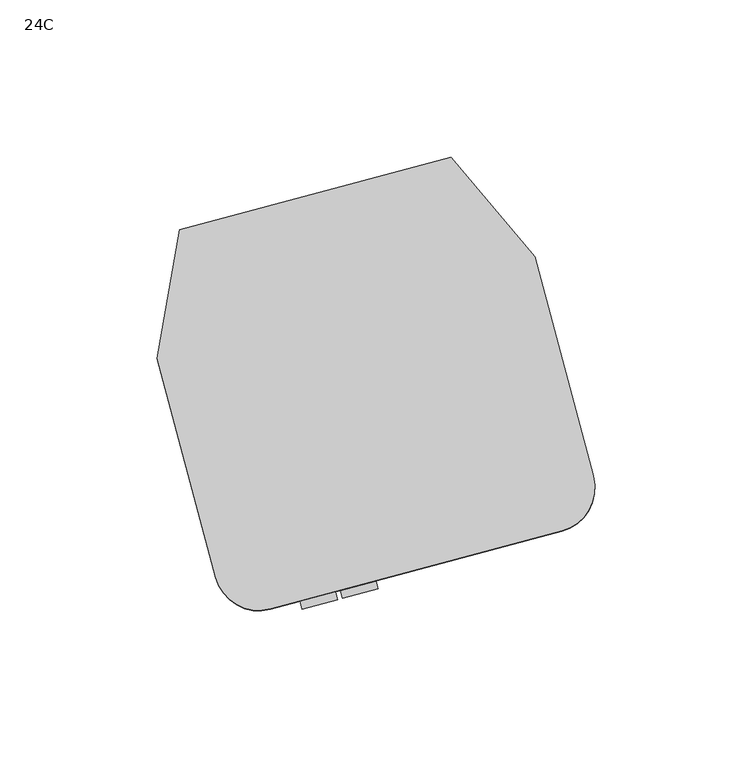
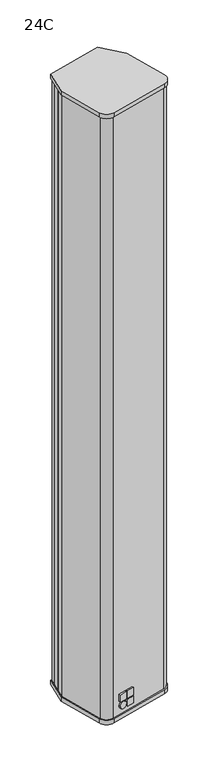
"""IFC4 building model written with IfcOpenShell, lengths in millimetres: proxy geometry, d&b xC-Series 24C Column : 24C."""

from ifc_helpers import new_model, si_unit, point, frame, frame_2d, origin, place, context, project, spatial, polyline, circle_curve, trimmed, segment, composite_curve, outline, extrude, source, transform, mapped, element, save
from ifc_brep_helpers import plane_surface, cylinder_surface, revolved_surface, advanced_brep


def proxy_24c_4d4a53e0(model_context):
    return source(origin(), model_context, "Body", "SolidModel", [
        extrude(outline(polyline([(31.0343606, 60.2144165), (32.9494717, 61.8213856), (42.582395, 50.3413145), (40.6672839, 48.7343455), (31.0343606, 60.2144165)])), frame((0.0, 0.0, -493.0), z_axis=(0.0, 0.0, 1.0), x_axis=(1.0, 0.0, 0.0)), (0.0, 0.0, 1.0), 986.0),
        extrude(outline(polyline([(-56.9837529, 36.6300341), (-59.5860737, 21.8715393), (-62.0480931, 22.3056597), (-59.4457723, 37.0641546), (-56.9837529, 36.6300341)])), frame((0.0, 0.0, -493.0), z_axis=(0.0, 0.0, 1.0), x_axis=(1.0, 0.0, 0.0)), (0.0, 0.0, 1.0), 986.0),
        advanced_brep(
        [(-46.5517702, 49.9018806, 493.0), (-57.7092905, 46.9122321, 493.0), (-59.4457723, 37.0641546, 493.0), (-56.9837529, 36.6300341, 493.0), (-59.5860737, 21.8715393, 493.0), (-62.0480931, 22.3056597, 493.0), (-64.6528158, 7.5335434, 493.0), (-46.0249993, -61.9864142, 493.0), (-30.975496, -70.675249, 493.0), (62.1631909, -45.7188131, 493.0), (70.8520257, -30.6693098, 493.0), (52.2242092, 38.8506479, 493.0), (42.582395, 50.3413145, 493.0), (40.6672839, 48.7343455, 493.0), (31.0343606, 60.2144165, 493.0), (32.9494717, 61.8213856, 493.0), (26.5215956, 69.48183, 493.0), (15.3640753, 66.4921814, 493.0), (15.9334774, 64.3671439, 493.0), (19.9903661, 65.4541839, 493.0), (20.7032742, 62.793575, 493.0), (17.8426496, 57.8388278, 493.0), (9.7245576, 55.6635916, 493.0), (4.7643418, 58.5273735, 493.0), (4.0525894, 61.1836695, 493.0), (8.1094782, 62.2707096, 493.0), (7.5400761, 64.3957472, 493.0), (-1.1049601, 62.0793167, 493.0), (1.4832304, 52.4200584, 493.0), (-27.4945444, 44.6554871, 493.0), (-30.0827349, 54.3147454, 493.0), (-38.727771, 51.9983149, 493.0), (-38.1583689, 49.8732773, 493.0), (-34.1014801, 50.9603174, 493.0), (-33.3897277, 48.3040214, 493.0), (-36.2535097, 43.3438056, 493.0), (-44.3716017, 41.1685694, 493.0), (-49.3263489, 44.029194, 493.0), (-50.0392569, 46.689803, 493.0), (-45.9823681, 47.7768431, 493.0), (-46.5517702, 49.9018806, -493.0), (-45.9823681, 47.7768431, -493.0), (-50.0392569, 46.689803, -493.0), (-49.3263489, 44.029194, -493.0), (-44.3716017, 41.1685694, -493.0), (-36.2535097, 43.3438056, -493.0), (-33.3897277, 48.3040214, -493.0), (-34.1014801, 50.9603174, -493.0), (-38.1583689, 49.8732773, -493.0), (-38.727771, 51.9983149, -493.0), (7.5400761, 64.3957472, -493.0), (8.1094782, 62.2707096, -493.0), (4.0525894, 61.1836695, -493.0), (4.7643418, 58.5273735, -493.0), (9.7245576, 55.6635916, -493.0), (17.8426496, 57.8388278, -493.0), (20.7032742, 62.793575, -493.0), (19.9903661, 65.4541839, -493.0), (15.9334774, 64.3671439, -493.0), (15.3640753, 66.4921814, -493.0), (26.5215956, 69.48183, -493.0), (32.9494717, 61.8213856, -493.0), (31.0343606, 60.2144165, -493.0), (40.6672839, 48.7343455, -493.0), (42.582395, 50.3413145, -493.0), (52.2242092, 38.8506479, -493.0), (70.8520257, -30.6693098, -493.0), (62.1631909, -45.7188131, -493.0), (-30.975496, -70.675249, -493.0), (-46.0249993, -61.9864142, -493.0), (-64.6528158, 7.5335434, -493.0), (-62.0480931, 22.3056597, -493.0), (-59.5860737, 21.8715393, -493.0), (-56.9837529, 36.6300341, -493.0), (-59.4457723, 37.0641546, -493.0), (-57.7092905, 46.9122321, -493.0), (-30.0827349, 54.3147454, 461.5), (-27.6679203, 54.961793, 459.0), (-3.5197746, 61.4322691, 459.0), (-1.1049601, 62.0793167, 461.5), (-18.8538471, 57.3235168, -263.5), (-18.8538471, 57.3235168, -365.0), (-12.3338478, 59.0705453, -365.0), (-12.3338478, 59.0705453, -263.5), (1.4832304, 52.4200584, 461.5), (-0.9315842, 51.7730108, 459.0), (-25.0797298, 45.3025347, 459.0), (-27.4945444, 44.6554871, 461.5), (-18.0126852, 54.1842578, -365.0), (-18.0126852, 54.1842578, -263.5), (-11.4926859, 55.9312864, -263.5), (-11.4926859, 55.9312864, -365.0)],
        [
            (0, 1),
            (1, 2),
            (2, 3),
            (3, 4),
            (4, 5),
            (5, 6),
            (6, 7),
            (7, 8, circle_curve(frame((-34.1558303, -58.80608, 493.0), z_axis=(0.0, 0.0, 1.0), x_axis=(-0.965925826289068, -0.2588190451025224, 0.0)), 12.287868)),
            (8, 9),
            (9, 10, circle_curve(frame((58.9828567, -33.849644, 493.0), z_axis=(0.0, 0.0, 1.0), x_axis=(-0.965925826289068, -0.2588190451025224, 0.0)), 12.287868)),
            (10, 11),
            (11, 12),
            (12, 13),
            (13, 14),
            (14, 15),
            (15, 16),
            (16, 17),
            (17, 18),
            (18, 19),
            (19, 20),
            (20, 21),
            (21, 22),
            (22, 23),
            (23, 24),
            (24, 25),
            (25, 26),
            (26, 27),
            (27, 28),
            (28, 29),
            (29, 30),
            (30, 31),
            (31, 32),
            (32, 33),
            (33, 34),
            (34, 35),
            (35, 36),
            (36, 37),
            (37, 38),
            (38, 39),
            (39, 0),
            (40, 41),
            (41, 42),
            (42, 43),
            (43, 44),
            (44, 45),
            (45, 46),
            (46, 47),
            (47, 48),
            (48, 49),
            (49, 50),
            (50, 51),
            (51, 52),
            (52, 53),
            (53, 54),
            (54, 55),
            (55, 56),
            (56, 57),
            (57, 58),
            (58, 59),
            (59, 60),
            (60, 61),
            (61, 62),
            (62, 63),
            (63, 64),
            (64, 65),
            (65, 66),
            (66, 67, circle_curve(frame((58.9828567, -33.849644, -493.0), z_axis=(0.0, 0.0, -1.0), x_axis=(-0.965925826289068, -0.2588190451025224, 0.0)), 12.287868)),
            (67, 68),
            (68, 69, circle_curve(frame((-34.1558303, -58.80608, -493.0), z_axis=(0.0, 0.0, -1.0), x_axis=(-0.965925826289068, -0.2588190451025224, 0.0)), 12.287868)),
            (69, 70),
            (70, 71),
            (71, 72),
            (72, 73),
            (73, 74),
            (74, 75),
            (75, 40),
            (0, 40),
            (75, 1),
            (6, 70),
            (69, 7),
            (68, 8),
            (67, 9),
            (66, 10),
            (65, 11),
            (64, 12),
            (16, 60),
            (59, 17),
            (58, 18),
            (57, 19),
            (56, 20),
            (55, 21),
            (54, 22),
            (53, 23),
            (52, 24),
            (51, 25),
            (50, 26),
            (49, 31),
            (30, 76),
            (76, 77, circle_curve(frame((-27.6679203, 54.961793, 461.5), z_axis=(0.25881904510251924, -0.9659258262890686, 0.0), x_axis=(-0.9659258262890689, -0.2588190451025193, 0.0)), 2.5)),
            (77, 78),
            (78, 79, circle_curve(frame((-3.5197746, 61.4322691, 461.5), z_axis=(0.25881904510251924, -0.9659258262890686, 0.0), x_axis=(-0.9659258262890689, -0.2588190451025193, 0.0)), 2.5)),
            (79, 27),
            (80, 81),
            (81, 82, circle_curve(frame((-15.5938475, 58.197031, -365.0), z_axis=(0.25881904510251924, -0.9659258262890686, 0.0), x_axis=(-0.9659258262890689, -0.2588190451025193, 0.0)), 3.375)),
            (82, 83),
            (83, 80, circle_curve(frame((-15.5938475, 58.197031, -263.5), z_axis=(0.25881904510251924, -0.9659258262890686, 0.0), x_axis=(-0.9659258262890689, -0.2588190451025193, 0.0)), 3.375)),
            (48, 32),
            (47, 33),
            (46, 34),
            (45, 35),
            (44, 36),
            (43, 37),
            (42, 38),
            (41, 39),
            (84, 85, circle_curve(frame((-0.9315842, 51.7730108, 461.5), z_axis=(-0.25881904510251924, 0.9659258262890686, 0.0), x_axis=(-0.9659258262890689, -0.2588190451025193, 0.0)), 2.5)),
            (85, 86),
            (86, 87, circle_curve(frame((-25.0797298, 45.3025347, 461.5), z_axis=(-0.25881904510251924, 0.9659258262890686, 0.0), x_axis=(-0.9659258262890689, -0.2588190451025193, 0.0)), 2.5)),
            (87, 29),
            (28, 84),
            (84, 79),
            (78, 85),
            (77, 86),
            (76, 87),
            (88, 89),
            (89, 90, circle_curve(frame((-14.7526856, 55.0577721, -263.5), z_axis=(-0.25881904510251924, 0.9659258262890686, 0.0), x_axis=(-0.9659258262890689, -0.2588190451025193, 0.0)), 3.375)),
            (90, 91),
            (91, 88, circle_curve(frame((-14.7526856, 55.0577721, -365.0), z_axis=(-0.25881904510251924, 0.9659258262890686, 0.0), x_axis=(-0.9659258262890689, -0.2588190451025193, 0.0)), 3.375)),
            (88, 81),
            (80, 89),
            (83, 90),
            (82, 91),
            (63, 13),
            (62, 14),
            (61, 15),
            (74, 2),
            (73, 3),
            (72, 4),
            (71, 5),
        ],
        [
            plane_surface(frame((-56.170884, 47.3244469, 493.0), z_axis=(0.0, 0.0, 1.0000000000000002), x_axis=(-0.965925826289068, -0.2588190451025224, 0.0))),
            plane_surface(frame((-56.170884, 47.3244469, -493.0), z_axis=(0.0, 0.0, -1.0000000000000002), x_axis=(0.965925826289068, 0.2588190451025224, 0.0))),
            plane_surface(frame((-46.5517702, 49.9018806, 493.0), z_axis=(-0.2588190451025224, 0.965925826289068, 0.0), x_axis=(0.0, 0.0, -1.0))),
            plane_surface(frame((-64.6528158, 7.5335434, 493.0), z_axis=(-0.965925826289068, -0.2588190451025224, 0.0), x_axis=(0.0, 0.0, -1.0))),
            cylinder_surface(frame((-34.1558303, -58.80608, -493.0), z_axis=(0.0, 0.0, 1.0000000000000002), x_axis=(-0.965925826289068, -0.2588190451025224, 0.0)), 12.287868),
            plane_surface(frame((-30.975496, -70.675249, 493.0), z_axis=(0.2588190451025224, -0.965925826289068, 0.0), x_axis=(0.0, 0.0, -1.0))),
            cylinder_surface(frame((58.9828567, -33.849644, -493.0), z_axis=(0.0, 0.0, 1.0000000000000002), x_axis=(-0.965925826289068, -0.2588190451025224, 0.0)), 12.287868),
            plane_surface(frame((70.8520257, -30.6693098, 493.0), z_axis=(0.965925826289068, 0.2588190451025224, 0.0), x_axis=(0.0, 0.0, -1.0))),
            plane_surface(frame((52.2242092, 38.8506479, 493.0), z_axis=(0.7660444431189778, 0.6427876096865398, 0.0), x_axis=(0.0, 0.0, -1.0))),
            plane_surface(frame((26.5215956, 69.48183, 493.0), z_axis=(-0.2588190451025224, 0.965925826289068, 0.0), x_axis=(0.0, 0.0, -1.0))),
            plane_surface(frame((15.3640753, 66.4921814, 493.0), z_axis=(-0.965925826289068, -0.2588190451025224, 0.0), x_axis=(0.0, 0.0, -1.0))),
            plane_surface(frame((15.9334774, 64.3671439, 493.0), z_axis=(0.25881904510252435, -0.9659258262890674, 0.0), x_axis=(0.0, 0.0, -1.0))),
            plane_surface(frame((19.9903661, 65.4541839, 493.0), z_axis=(-0.965925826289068, -0.2588190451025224, 0.0), x_axis=(0.0, 0.0, -1.0))),
            plane_surface(frame((20.7032742, 62.793575, 493.0), z_axis=(-0.8660254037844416, 0.4999999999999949, 0.0), x_axis=(0.0, 0.0, -1.0))),
            plane_surface(frame((17.8426496, 57.8388278, 493.0), z_axis=(-0.2588190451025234, 0.9659258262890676, 0.0), x_axis=(0.0, 0.0, -1.0))),
            plane_surface(frame((9.7245576, 55.6635916, 493.0), z_axis=(0.5000000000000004, 0.8660254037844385, 0.0), x_axis=(0.0, 0.0, -1.0))),
            plane_surface(frame((4.7643418, 58.5273735, 493.0), z_axis=(0.965925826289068, 0.2588190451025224, 0.0), x_axis=(0.0, 0.0, -1.0))),
            plane_surface(frame((4.0525894, 61.1836695, 493.0), z_axis=(0.25881904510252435, -0.9659258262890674, 0.0), x_axis=(0.0, 0.0, -1.0))),
            plane_surface(frame((8.1094782, 62.2707096, 493.0), z_axis=(0.965925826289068, 0.2588190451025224, 0.0), x_axis=(0.0, 0.0, -1.0))),
            plane_surface(frame((7.5400761, 64.3957472, 493.0), z_axis=(-0.2588190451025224, 0.965925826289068, 0.0), x_axis=(0.0, 0.0, -1.0))),
            plane_surface(frame((-38.727771, 51.9983149, 493.0), z_axis=(-0.965925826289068, -0.2588190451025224, 0.0), x_axis=(0.0, 0.0, -1.0))),
            plane_surface(frame((-38.1583689, 49.8732773, 493.0), z_axis=(0.2588190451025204, -0.9659258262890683, 0.0), x_axis=(0.0, 0.0, -1.0))),
            plane_surface(frame((-34.1014801, 50.9603174, 493.0), z_axis=(-0.965925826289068, -0.2588190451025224, 0.0), x_axis=(0.0, 0.0, -1.0))),
            plane_surface(frame((-33.3897277, 48.3040214, 493.0), z_axis=(-0.8660254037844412, 0.4999999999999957, 0.0), x_axis=(0.0, 0.0, -1.0))),
            plane_surface(frame((-36.2535097, 43.3438056, 493.0), z_axis=(-0.25881904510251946, 0.9659258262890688, 0.0), x_axis=(0.0, 0.0, -1.0))),
            plane_surface(frame((-44.3716017, 41.1685694, 493.0), z_axis=(0.5000000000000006, 0.8660254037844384, 0.0), x_axis=(0.0, 0.0, -1.0))),
            plane_surface(frame((-49.3263489, 44.029194, 493.0), z_axis=(0.965925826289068, 0.2588190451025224, 0.0), x_axis=(0.0, 0.0, -1.0))),
            plane_surface(frame((-50.0392569, 46.689803, 493.0), z_axis=(0.2588190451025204, -0.9659258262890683, 0.0), x_axis=(0.0, 0.0, -1.0))),
            plane_surface(frame((-45.9823681, 47.7768431, 493.0), z_axis=(0.965925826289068, 0.2588190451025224, 0.0), x_axis=(0.0, 0.0, -1.0))),
            plane_surface(frame((-3.3463988, 51.1259632, 461.5), z_axis=(-0.2588190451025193, 0.9659258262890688, 0.0), x_axis=(0.0, 0.0, -1.0))),
            revolved_surface(polyline([(-5.934589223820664, 60.78522147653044, 461.5), (-3.3463987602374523, 51.125963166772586, 461.5)]), (-0.9315842, 51.7730108, 461.5), (-0.25881904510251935, 0.9659258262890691, 0.0)),
            plane_surface(frame((-3.972708, 63.1226393, 459.0), z_axis=(0.0, 0.0, 1.0000000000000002), x_axis=(0.25881904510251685, -0.9659258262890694, 0.0))),
            revolved_surface(polyline([(-30.082734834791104, 54.31474541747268, 461.5), (-27.49454436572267, 44.655487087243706, 461.5)]), (-25.0797298, 45.3025347, 461.5), (-0.25881904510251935, 0.9659258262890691, 0.0)),
            plane_surface(frame((-30.5356682, 56.0051156, 461.5), z_axis=(0.9659258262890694, 0.25881904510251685, 0.0), x_axis=(0.25881904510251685, -0.9659258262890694, 0.0))),
            plane_surface(frame((-1.5578934, 63.7696869, 493.0), z_axis=(-0.9659258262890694, -0.25881904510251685, 0.0), x_axis=(0.25881904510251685, -0.9659258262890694, 0.0))),
            plane_surface(frame((-18.0126852, 54.1842578, -286.8896769), z_axis=(-0.2588190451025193, 0.9659258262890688, 0.0), x_axis=(0.0, 0.0, -1.0))),
            plane_surface(frame((-19.3067805, 59.013887, -365.0), z_axis=(0.965925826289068, 0.2588190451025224, 0.0), x_axis=(0.2588190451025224, -0.965925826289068, 0.0))),
            revolved_surface(polyline([(-18.853847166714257, 57.32351678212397, -263.5), (-18.01268525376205, 54.1842577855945, -263.5)]), (-14.7526856, 55.0577721, -263.5), (-0.25881904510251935, 0.9659258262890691, 0.0)),
            plane_surface(frame((-12.7867811, 60.7609155, -263.5), z_axis=(-0.965925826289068, -0.2588190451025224, 0.0), x_axis=(0.2588190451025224, -0.965925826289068, 0.0))),
            revolved_surface(polyline([(-18.853847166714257, 57.32351678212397, -365.0), (-18.01268525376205, 54.1842577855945, -365.0)]), (-14.7526856, 55.0577721, -365.0), (-0.25881904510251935, 0.9659258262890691, 0.0)),
            plane_surface(frame((42.582395, 50.3413145, 493.0), z_axis=(-0.6427876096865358, 0.7660444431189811, 0.0), x_axis=(0.0, 0.0, -1.0))),
            plane_surface(frame((40.6672839, 48.7343455, 493.0), z_axis=(0.7660444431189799, 0.6427876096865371, 0.0), x_axis=(0.0, 0.0, -1.0))),
            plane_surface(frame((31.0343606, 60.2144165, 493.0), z_axis=(0.6427876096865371, -0.76604444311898, 0.0), x_axis=(0.0, 0.0, -1.0))),
            plane_surface(frame((32.9494717, 61.8213856, 493.0), z_axis=(0.7660444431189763, 0.6427876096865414, 0.0), x_axis=(0.0, 0.0, -1.0))),
            plane_surface(frame((-57.7092905, 46.9122321, 493.0), z_axis=(-0.9848077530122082, 0.17364817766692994, 0.0), x_axis=(0.0, 0.0, -1.0))),
            plane_surface(frame((-59.4457723, 37.0641546, 493.0), z_axis=(-0.17364817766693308, -0.9848077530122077, 0.0), x_axis=(0.0, 0.0, -1.0))),
            plane_surface(frame((-56.9837529, 36.6300341, 493.0), z_axis=(-0.9848077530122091, 0.17364817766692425, 0.0), x_axis=(0.0, 0.0, -1.0))),
            plane_surface(frame((-59.5860737, 21.8715393, 493.0), z_axis=(0.17364817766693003, 0.9848077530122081, 0.0), x_axis=(0.0, 0.0, -1.0))),
            plane_surface(frame((-62.0480931, 22.3056597, 493.0), z_axis=(-0.9848077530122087, 0.1736481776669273, 0.0), x_axis=(0.0, 0.0, -1.0))),
        ],
        [
            (0, [[1, 2, 3, 4, 5, 6, 7, 8, 9, 10, 11, 12, 13, 14, 15, 16, 17, 18, 19, 20, 21, 22, 23, 24, 25, 26, 27, 28, 29, 30, 31, 32, 33, 34, 35, 36, 37, 38, 39, 40]]),
            (1, [[41, 42, 43, 44, 45, 46, 47, 48, 49, 50, 51, 52, 53, 54, 55, 56, 57, 58, 59, 60, 61, 62, 63, 64, 65, 66, 67, 68, 69, 70, 71, 72, 73, 74, 75, 76]]),
            (2, [[-1, 77, -76, 78]]),
            (3, [[-7, 79, -70, 80]]),
            (4, [[-8, -80, -69, 81]]),
            (5, [[-9, -81, -68, 82]]),
            (6, [[-10, -82, -67, 83]]),
            (7, [[-11, -83, -66, 84]]),
            (8, [[-12, -84, -65, 85]]),
            (9, [[-17, 86, -60, 87]]),
            (10, [[-18, -87, -59, 88]]),
            (11, [[-19, -88, -58, 89]]),
            (12, [[-20, -89, -57, 90]]),
            (13, [[-21, -90, -56, 91]]),
            (14, [[-22, -91, -55, 92]]),
            (15, [[-23, -92, -54, 93]]),
            (16, [[-24, -93, -53, 94]]),
            (17, [[-25, -94, -52, 95]]),
            (18, [[-26, -95, -51, 96]]),
            (19, [[-50, 97, -31, 98, 99, 100, 101, 102, -27, -96], [103, 104, 105, 106]]),
            (20, [[-32, -97, -49, 107]]),
            (21, [[-33, -107, -48, 108]]),
            (22, [[-34, -108, -47, 109]]),
            (23, [[-35, -109, -46, 110]]),
            (24, [[-36, -110, -45, 111]]),
            (25, [[-37, -111, -44, 112]]),
            (26, [[-38, -112, -43, 113]]),
            (27, [[-39, -113, -42, 114]]),
            (28, [[-40, -114, -41, -77]]),
            (29, [[115, 116, 117, 118, -29, 119]]),
            (30, [[-115, 120, -101, 121]]),
            (31, [[-116, -121, -100, 122]]),
            (32, [[-117, -122, -99, 123]]),
            (33, [[-118, -123, -98, -30]]),
            (34, [[-119, -28, -102, -120]]),
            (35, [[124, 125, 126, 127]]),
            (36, [[-124, 128, -103, 129]]),
            (37, [[-125, -129, -106, 130]]),
            (38, [[-126, -130, -105, 131]]),
            (39, [[-127, -131, -104, -128]]),
            (40, [[-13, -85, -64, 132]]),
            (41, [[-14, -132, -63, 133]]),
            (42, [[-15, -133, -62, 134]]),
            (43, [[-16, -134, -61, -86]]),
            (44, [[-2, -78, -75, 135]]),
            (45, [[-3, -135, -74, 136]]),
            (46, [[-4, -136, -73, 137]]),
            (47, [[-5, -137, -72, 138]]),
            (48, [[-6, -138, -71, -79]]),
        ],
    ),
        extrude(outline(polyline([(-20.8633044, -69.7774288), (-9.5941698, -66.7578732), (-8.9471222, -69.1726878), (-20.2162568, -72.1922433), (-20.8633044, -69.7774288)])), frame((0.0, 0.0, -469.6666667), z_axis=(0.0, 0.0, 1.0), x_axis=(1.0, 0.0, 0.0)), (0.0, 0.0, 1.0), 11.6666667),
        extrude(outline(polyline([(-7.9842934, -66.3265082), (3.2848412, -63.3069526), (3.9318889, -65.7217672), (-7.3372458, -68.7413227), (-7.9842934, -66.3265082)])), frame((0.0, 0.0, -469.6666667), z_axis=(0.0, 0.0, 1.0), x_axis=(1.0, 0.0, 0.0)), (0.0, 0.0, 1.0), 11.6666667),
        extrude(outline(polyline([(-7.9842934, -66.3265082), (3.2848412, -63.3069526), (3.9318889, -65.7217672), (-7.3372458, -68.7413227), (-7.9842934, -66.3265082)])), frame((0.0, 0.0, -483.0), z_axis=(0.0, 0.0, 1.0), x_axis=(1.0, 0.0, 0.0)), (0.0, 0.0, 1.0), 11.6666667),
        extrude(outline(composite_curve([segment(trimmed(circle_curve(frame_2d((-0.9849738, -5.8333333)), 5.8333333), [point((-0.9849738, 0.0))], [point((-0.9849738, -11.6666666))], False, "CARTESIAN"), True, "CONTINUOUS"), segment(trimmed(circle_curve(frame_2d((-0.9849738, -5.8333333)), 5.8333333), [point((-0.9849738, -11.6666666))], [point((-0.9849738, 0.0))], False, "CARTESIAN"), True, "CONTINUOUS")], self_intersect=False)), frame((-8.9471222, -69.1726878, -476.1816929), z_axis=(-0.2588190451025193, 0.9659258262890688, 0.0), x_axis=(0.0, 0.0, 1.0)), (0.0, 0.0, 1.0), 2.5),
        extrude(outline(composite_curve([segment(polyline([(27.1455468, 71.4607505), (53.8141665, 39.6783273), (72.4874921, -30.0114726)]), True, "CONTINUOUS"), segment(trimmed(circle_curve(frame_2d((58.7230491, -33.699644)), 14.25), [point((72.4874921, -30.0114726))], [point((62.4112205, -47.4640871))], False, "CARTESIAN"), True, "CONTINUOUS"), segment(polyline([(62.4112205, -47.4640871), (-30.3176589, -72.3107154)]), True, "CONTINUOUS"), segment(trimmed(circle_curve(frame_2d((-34.0058303, -58.5462724)), 14.25), [point((-30.3176589, -72.3107154))], [point((-47.7702733, -62.2344438))], False, "CARTESIAN"), True, "CONTINUOUS"), segment(polyline([(-47.7702733, -62.2344438), (-66.4435989, 7.4553561), (-59.2391084, 48.3140519), (27.1455468, 71.4607505)]), True, "CONTINUOUS")], self_intersect=False)), frame((0.0, 0.0, -500.0), z_axis=(0.0, 0.0, 1.0), x_axis=(1.0, 0.0, 0.0)), (0.0, 0.0, 1.0), 7.0),
        extrude(outline(composite_curve([segment(polyline([(27.1455468, 71.4607505), (53.8141665, 39.6783273), (72.4874921, -30.0114726)]), True, "CONTINUOUS"), segment(trimmed(circle_curve(frame_2d((58.7230491, -33.699644)), 14.25), [point((72.4874921, -30.0114726))], [point((62.4112205, -47.4640871))], False, "CARTESIAN"), True, "CONTINUOUS"), segment(polyline([(62.4112205, -47.4640871), (-30.3176589, -72.3107154)]), True, "CONTINUOUS"), segment(trimmed(circle_curve(frame_2d((-34.0058303, -58.5462724)), 14.25), [point((-30.3176589, -72.3107154))], [point((-47.7702733, -62.2344438))], False, "CARTESIAN"), True, "CONTINUOUS"), segment(polyline([(-47.7702733, -62.2344438), (-66.4435989, 7.4553561), (-59.2391084, 48.3140519), (27.1455468, 71.4607505)]), True, "CONTINUOUS")], self_intersect=False)), frame((0.0, 0.0, 493.0), z_axis=(0.0, 0.0, 1.0), x_axis=(1.0, 0.0, 0.0)), (0.0, 0.0, 1.0), 7.0),
    ])


if __name__ == "__main__":
    model = new_model("IFC4")
    model_context = context("Model", 3, world=origin())
    ifc_project = project(units=[si_unit("LENGTHUNIT", "METRE", prefix="MILLI")], contexts=[model_context])
    site = spatial("IfcSite", under=ifc_project)
    building = spatial("IfcBuilding", under=site)
    placement = place(None, origin())
    proxy_24c_shape = proxy_24c_4d4a53e0(model_context)
    element("IfcBuildingElementProxy", 1, Name="d&b xC-Series 24C Column : 24C", ObjectType="d&b xC-Series 24C Column : 24C", at=placement, inside=building, context=model_context, shape_type="MappedRepresentation", body=[
        mapped(proxy_24c_shape, transform((0.0, 0.0, 0.0), x_axis=(1.0, 0.0, 0.0), y_axis=(0.0, 1.0, 0.0), z_axis=(0.0, 0.0, 1.0))),
    ])
    save(model, "model.ifc")
